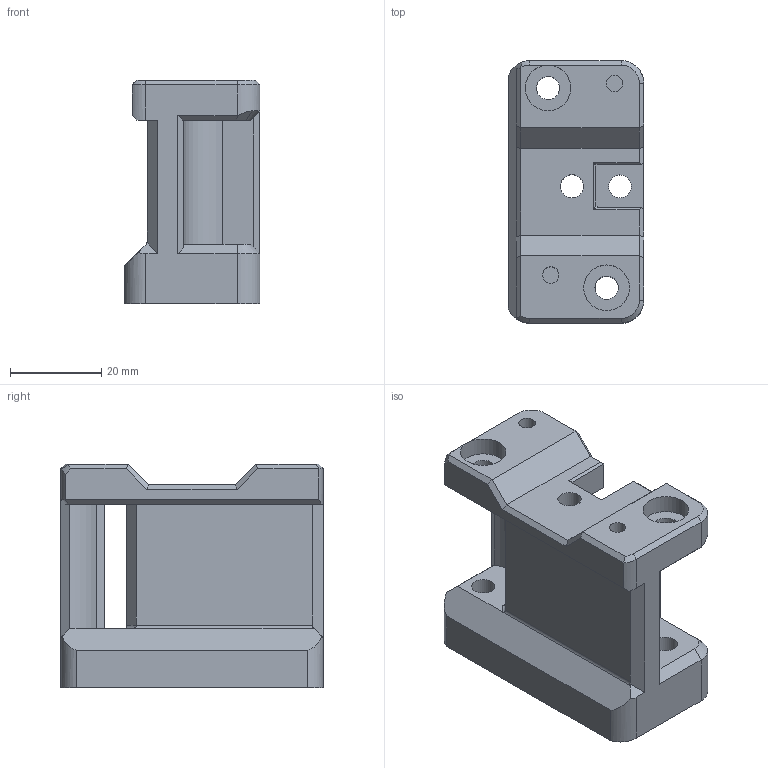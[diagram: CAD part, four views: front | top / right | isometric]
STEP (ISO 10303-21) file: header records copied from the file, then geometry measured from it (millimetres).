
FILE_DESCRIPTION(/* description */ (''),/* implementation_level */ '2;1');
FILE_NAME(/* name */ 'C:/Users/Florent/Desktop/Joiner Uni.step',/* time_stamp */ '2022-07-31T20:32:07+02:00',/* author */ (''),/* organization */ (''),/* preprocessor_version */ 'ST-DEVELOPER v19',/* originating_system */ 'Autodesk Translation Framework v11.7.0.108',/* authorisation */ '');
FILE_SCHEMA (('AUTOMOTIVE_DESIGN { 1 0 10303 214 3 1 1 }'));
Length unit declared in the file: millimetre
Products named in the file (1): FusionComponent
Bounding box: 29.75 x 57.5 x 49 mm (x, y, z)
Volume: 43241.7 mm3; surface area: 15155.8 mm2
Topology: 1 solids, 1 shells, 127 faces, 336 edges, 212 vertices
Faces by surface type: plane 81, cylinder 30, cone 11, bspline 5
Full cylindrical faces by diameter (mm): 3.6 x2, 5 x1, 5.1 x6, 10 x2
Entity records: 4163 total; most frequent: CARTESIAN_POINT 938, ORIENTED_EDGE 672, DIRECTION 646, EDGE_CURVE 336, LINE 234, VECTOR 234, VERTEX_POINT 212, AXIS2_PLACEMENT_3D 206
